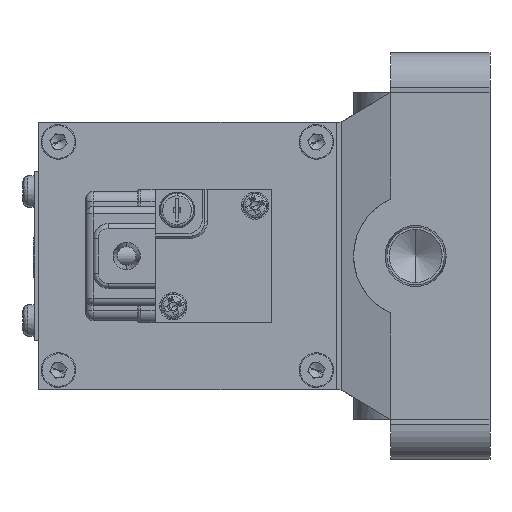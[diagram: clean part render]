
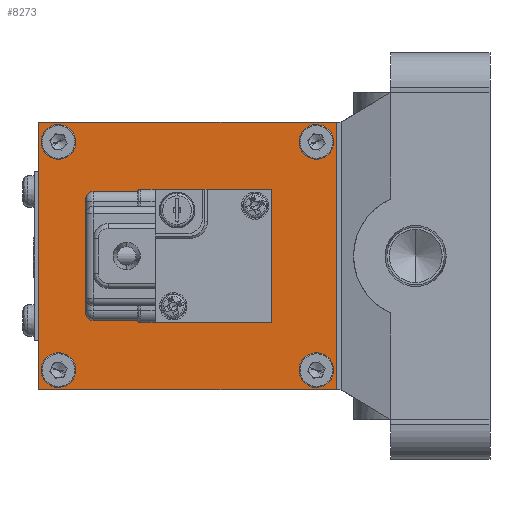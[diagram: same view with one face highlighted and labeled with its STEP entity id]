
A CAD part, left-side view. The second image highlights one B-rep face of the part: STEP entity #8273.
In plain terms, the highlighted planar face has unit normal (-1, 0, 0) as drawn and (1, 0, 0) by its records, which use the part's own axes.
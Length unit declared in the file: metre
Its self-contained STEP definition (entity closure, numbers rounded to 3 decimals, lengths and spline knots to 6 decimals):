
#155 = CIRCLE ( 'NONE', #6583, 0.002 ) ;
#466 = EDGE_CURVE ( 'NONE', #8432, #7992, #155, .T. ) ;
#526 = EDGE_LOOP ( 'NONE', ( #12051, #4880 ) ) ;
#627 = CIRCLE ( 'NONE', #3511, 0.002 ) ;
#700 = ORIENTED_EDGE ( 'NONE', *, *, #4190, .T. ) ;
#913 = DIRECTION ( 'NONE',  ( 1., 0., 0. ) ) ;
#1217 = VERTEX_POINT ( 'NONE', #13668 ) ;
#1264 = DIRECTION ( 'NONE',  ( 1., 0., 0. ) ) ;
#1381 = DIRECTION ( 'NONE',  ( 0., 0., -1. ) ) ;
#1513 = EDGE_LOOP ( 'NONE', ( #11575, #3039 ) ) ;
#2411 = CARTESIAN_POINT ( 'NONE',  ( 0.051, 0.031, 0.027 ) ) ;
#2807 = EDGE_CURVE ( 'NONE', #16552, #3425, #12456, .T. ) ;
#2894 = CARTESIAN_POINT ( 'NONE',  ( 0.051, 0.031, 0. ) ) ;
#2970 = LINE ( 'NONE', #9766, #12742 ) ;
#3039 = ORIENTED_EDGE ( 'NONE', *, *, #4413, .T. ) ;
#3122 = CARTESIAN_POINT ( 'NONE',  ( 0.051, 0.035, 0.023 ) ) ;
#3329 = CARTESIAN_POINT ( 'NONE',  ( 0.051, 0.091, 0. ) ) ;
#3355 = LINE ( 'NONE', #12327, #17320 ) ;
#3425 = VERTEX_POINT ( 'NONE', #17309 ) ;
#3511 = AXIS2_PLACEMENT_3D ( 'NONE', #11949, #3573, #13352 ) ;
#3573 = DIRECTION ( 'NONE',  ( -1., 0., 0. ) ) ;
#3805 = ORIENTED_EDGE ( 'NONE', *, *, #3985, .T. ) ;
#3985 = EDGE_CURVE ( 'NONE', #14339, #10971, #5411, .T. ) ;
#4190 = EDGE_CURVE ( 'NONE', #10250, #9952, #13954, .T. ) ;
#4413 = EDGE_CURVE ( 'NONE', #1217, #16758, #14599, .T. ) ;
#4480 = ORIENTED_EDGE ( 'NONE', *, *, #2807, .T. ) ;
#4482 = DIRECTION ( 'NONE',  ( 0., 0., -1. ) ) ;
#4617 = CARTESIAN_POINT ( 'NONE',  ( 0.051, 0.035, 0.025 ) ) ;
#4880 = ORIENTED_EDGE ( 'NONE', *, *, #5333, .F. ) ;
#5025 = DIRECTION ( 'NONE',  ( -1., 0., 0. ) ) ;
#5333 = EDGE_CURVE ( 'NONE', #7992, #8432, #7791, .T. ) ;
#5394 = AXIS2_PLACEMENT_3D ( 'NONE', #17799, #9699, #1381 ) ;
#5411 = CIRCLE ( 'NONE', #8979, 0.002 ) ;
#5452 = VECTOR ( 'NONE', #11684, 1. ) ;
#5548 = FACE_BOUND ( 'NONE', #6500, .T. ) ;
#5665 = DIRECTION ( 'NONE',  ( 0., 0., -1. ) ) ;
#5836 = ORIENTED_EDGE ( 'NONE', *, *, #14054, .T. ) ;
#6447 = EDGE_CURVE ( 'NONE', #16758, #1217, #627, .T. ) ;
#6500 = EDGE_LOOP ( 'NONE', ( #5836, #3805 ) ) ;
#6583 = AXIS2_PLACEMENT_3D ( 'NONE', #9225, #913, #10639 ) ;
#6877 = EDGE_CURVE ( 'NONE', #9952, #10250, #14782, .T. ) ;
#6922 = CARTESIAN_POINT ( 'NONE',  ( 0.051, 0.087, 0.023 ) ) ;
#6934 = CIRCLE ( 'NONE', #5394, 0.002 ) ;
#7166 = DIRECTION ( 'NONE',  ( -1., 0., 0. ) ) ;
#7336 = AXIS2_PLACEMENT_3D ( 'NONE', #6922, #16686, #8338 ) ;
#7620 = AXIS2_PLACEMENT_3D ( 'NONE', #2411, #10749, #16354 ) ;
#7779 = CARTESIAN_POINT ( 'NONE',  ( 0.051, 0.087, 0.021 ) ) ;
#7791 = CIRCLE ( 'NONE', #10514, 0.002 ) ;
#7992 = VERTEX_POINT ( 'NONE', #8903 ) ;
#8223 = ORIENTED_EDGE ( 'NONE', *, *, #10708, .T. ) ;
#8273 = ADVANCED_FACE ( 'NONE', ( #5548, #12555, #16699, #16254, #9272 ), #13568, .T. ) ;
#8338 = DIRECTION ( 'NONE',  ( 0., 0., -1. ) ) ;
#8432 = VERTEX_POINT ( 'NONE', #12945 ) ;
#8712 = ORIENTED_EDGE ( 'NONE', *, *, #6877, .T. ) ;
#8903 = CARTESIAN_POINT ( 'NONE',  ( 0.051, 0.087, -0.021 ) ) ;
#8979 = AXIS2_PLACEMENT_3D ( 'NONE', #3122, #12885, #4482 ) ;
#9225 = CARTESIAN_POINT ( 'NONE',  ( 0.051, 0.087, -0.023 ) ) ;
#9272 = FACE_OUTER_BOUND ( 'NONE', #15025, .T. ) ;
#9478 = CARTESIAN_POINT ( 'NONE',  ( 0.051, 0.035, -0.025 ) ) ;
#9516 = DIRECTION ( 'NONE',  ( 0., 1., 0. ) ) ;
#9557 = AXIS2_PLACEMENT_3D ( 'NONE', #13419, #5025, #14817 ) ;
#9593 = CARTESIAN_POINT ( 'NONE',  ( 0.051, 0.087, -0.023 ) ) ;
#9699 = DIRECTION ( 'NONE',  ( -1., 0., 0. ) ) ;
#9766 = CARTESIAN_POINT ( 'NONE',  ( 0.051, 0.061, 0.027 ) ) ;
#9952 = VERTEX_POINT ( 'NONE', #9478 ) ;
#10250 = VERTEX_POINT ( 'NONE', #13095 ) ;
#10308 = CARTESIAN_POINT ( 'NONE',  ( 0.051, 0.031, 0.027 ) ) ;
#10514 = AXIS2_PLACEMENT_3D ( 'NONE', #9593, #1264, #11000 ) ;
#10549 = EDGE_CURVE ( 'NONE', #11521, #16552, #3355, .T. ) ;
#10639 = DIRECTION ( 'NONE',  ( 0., 0., -1. ) ) ;
#10708 = EDGE_CURVE ( 'NONE', #3425, #13027, #2970, .T. ) ;
#10749 = DIRECTION ( 'NONE',  ( 1., 0., 0. ) ) ;
#10758 = EDGE_CURVE ( 'NONE', #13027, #11521, #15123, .T. ) ;
#10971 = VERTEX_POINT ( 'NONE', #11666 ) ;
#11000 = DIRECTION ( 'NONE',  ( 0., 0., -1. ) ) ;
#11432 = VECTOR ( 'NONE', #5665, 1. ) ;
#11521 = VERTEX_POINT ( 'NONE', #15434 ) ;
#11575 = ORIENTED_EDGE ( 'NONE', *, *, #6447, .T. ) ;
#11666 = CARTESIAN_POINT ( 'NONE',  ( 0.051, 0.035, 0.021 ) ) ;
#11684 = DIRECTION ( 'NONE',  ( 0., 0., 1. ) ) ;
#11949 = CARTESIAN_POINT ( 'NONE',  ( 0.051, 0.087, 0.023 ) ) ;
#12051 = ORIENTED_EDGE ( 'NONE', *, *, #466, .F. ) ;
#12327 = CARTESIAN_POINT ( 'NONE',  ( 0.051, 0.061, -0.027 ) ) ;
#12456 = LINE ( 'NONE', #3329, #5452 ) ;
#12555 = FACE_BOUND ( 'NONE', #16416, .T. ) ;
#12575 = DIRECTION ( 'NONE',  ( 0., -1., 0. ) ) ;
#12742 = VECTOR ( 'NONE', #12575, 1. ) ;
#12885 = DIRECTION ( 'NONE',  ( -1., 0., 0. ) ) ;
#12945 = CARTESIAN_POINT ( 'NONE',  ( 0.051, 0.087, -0.025 ) ) ;
#13027 = VERTEX_POINT ( 'NONE', #10308 ) ;
#13095 = CARTESIAN_POINT ( 'NONE',  ( 0.051, 0.035, -0.021 ) ) ;
#13352 = DIRECTION ( 'NONE',  ( 0., 0., -1. ) ) ;
#13419 = CARTESIAN_POINT ( 'NONE',  ( 0.051, 0.035, -0.023 ) ) ;
#13568 = PLANE ( 'NONE',  #7620 ) ;
#13668 = CARTESIAN_POINT ( 'NONE',  ( 0.051, 0.087, 0.025 ) ) ;
#13954 = CIRCLE ( 'NONE', #9557, 0.002 ) ;
#14054 = EDGE_CURVE ( 'NONE', #10971, #14339, #6934, .T. ) ;
#14339 = VERTEX_POINT ( 'NONE', #4617 ) ;
#14599 = CIRCLE ( 'NONE', #7336, 0.002 ) ;
#14782 = CIRCLE ( 'NONE', #15323, 0.002 ) ;
#14817 = DIRECTION ( 'NONE',  ( 0., 0., -1. ) ) ;
#15025 = EDGE_LOOP ( 'NONE', ( #17433, #17738, #4480, #8223 ) ) ;
#15123 = LINE ( 'NONE', #2894, #11432 ) ;
#15323 = AXIS2_PLACEMENT_3D ( 'NONE', #15540, #7166, #16934 ) ;
#15434 = CARTESIAN_POINT ( 'NONE',  ( 0.051, 0.031, -0.027 ) ) ;
#15540 = CARTESIAN_POINT ( 'NONE',  ( 0.051, 0.035, -0.023 ) ) ;
#15729 = CARTESIAN_POINT ( 'NONE',  ( 0.051, 0.091, -0.027 ) ) ;
#16254 = FACE_BOUND ( 'NONE', #526, .T. ) ;
#16354 = DIRECTION ( 'NONE',  ( 0., 0., -1. ) ) ;
#16416 = EDGE_LOOP ( 'NONE', ( #8712, #700 ) ) ;
#16552 = VERTEX_POINT ( 'NONE', #15729 ) ;
#16686 = DIRECTION ( 'NONE',  ( -1., 0., 0. ) ) ;
#16699 = FACE_BOUND ( 'NONE', #1513, .T. ) ;
#16758 = VERTEX_POINT ( 'NONE', #7779 ) ;
#16934 = DIRECTION ( 'NONE',  ( 0., 0., -1. ) ) ;
#17309 = CARTESIAN_POINT ( 'NONE',  ( 0.051, 0.091, 0.027 ) ) ;
#17320 = VECTOR ( 'NONE', #9516, 1. ) ;
#17433 = ORIENTED_EDGE ( 'NONE', *, *, #10758, .T. ) ;
#17738 = ORIENTED_EDGE ( 'NONE', *, *, #10549, .T. ) ;
#17799 = CARTESIAN_POINT ( 'NONE',  ( 0.051, 0.035, 0.023 ) ) ;
